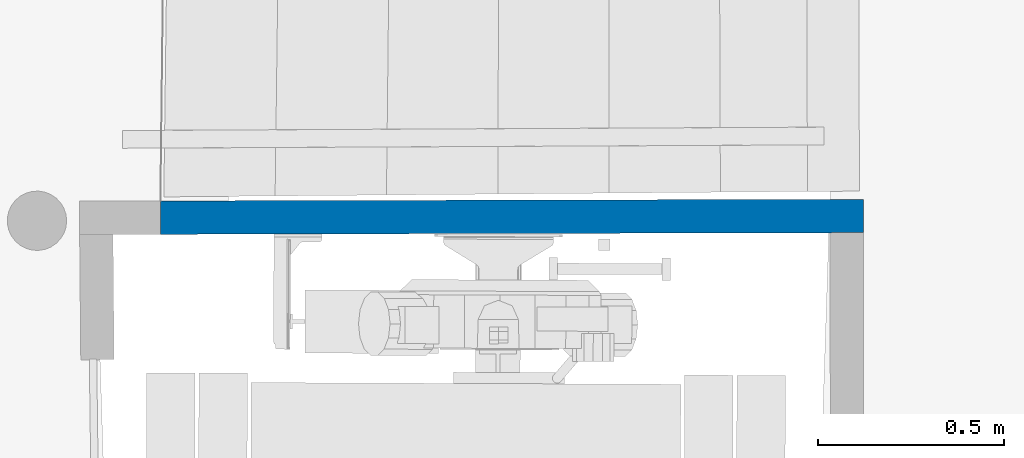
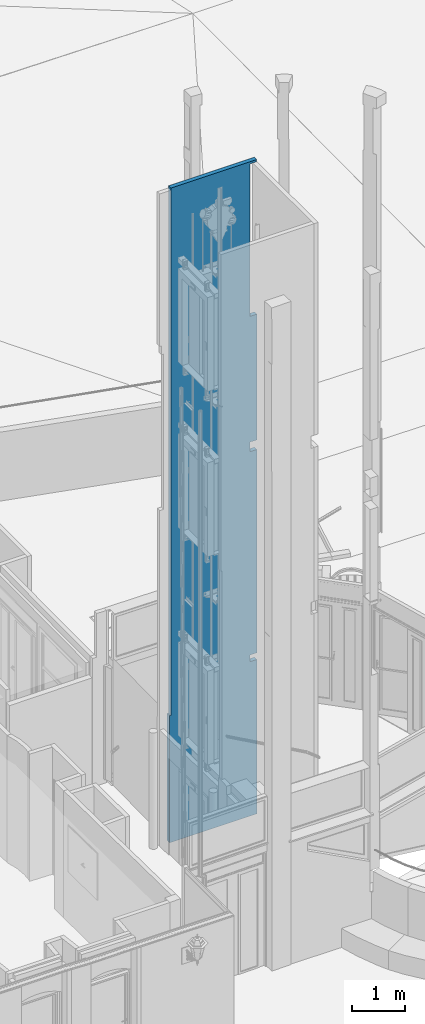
# One storey, part 100 of 133: 1 wall.
"""IFC2X3 building model written with IfcOpenShell, lengths in centimetres."""

from ifc_helpers import new_model, entity, si_unit, converted_unit, direction, frame, origin, origin_with_axes, place, context, subcontext, project, spatial, faceted_brep, material, layer, layer_set, layer_usage, type_object, element, save


model = new_model("IFC2X3")

# Units and contexts
model_context = context("Model", 3, precision=0.0001, world=origin(), true_north=direction((0.225632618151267, 0.974212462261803, 0.0)))
body_context = subcontext(model_context, "Body", "Model", "MODEL_VIEW")
ifc_project = project(units=[si_unit("LENGTHUNIT", "METRE", prefix="CENTI"), si_unit("AREAUNIT", "SQUARE_METRE", prefix="CENTI"), si_unit("VOLUMEUNIT", "CUBIC_METRE", prefix="CENTI"), converted_unit("PLANEANGLEUNIT", "DEGREE", entity("IfcRatioMeasure", 0.0174532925), si_unit("PLANEANGLEUNIT", "RADIAN"), dimensions=[0, 0, 0, 0, 0, 0, 0])], contexts=[model_context])

# Site, building, storey
site_placement = place(None, origin_with_axes())
site = spatial("IfcSite", under=ifc_project, at=site_placement, Name="Default Site", CompositionType="ELEMENT")
building_placement = place(site_placement, origin_with_axes())
building = spatial("IfcBuilding", under=site, at=building_placement, Name="Default Building", CompositionType="ELEMENT")
storey_placement = place(building_placement, frame((0.0, 0.0, -291.400371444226), z_axis=(0.0, 0.0, 1.0), x_axis=(1.0, 0.0, 0.0)))
storey = spatial("IfcBuildingStorey", under=building, at=storey_placement, Name="Rez-de-Jardin", CompositionType="ELEMENT", Elevation=-291.400371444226)

# Wall
ifc_material = material(Name="<aucun>")
ifc_layer = layer(ifc_material, 9.0)
ifc_layer_set = layer_set([ifc_layer], Name="default")
ifc_layer_usage = layer_usage(ifc_layer_set, "AXIS2", "POSITIVE", -4.5)
wall_type = type_object("IfcWallType", Name="default 90", PredefinedType="NOTDEFINED", material=ifc_layer_set)
wall_placement = place(storey_placement, frame((1121.43966080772, -435.118441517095, 7.46069872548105e-12), z_axis=(0.0, 0.0, 1.0), x_axis=(0.9999971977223, 0.00236739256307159, 0.0)))
element("IfcWall", 1, at=wall_placement, inside=storey, type_object=wall_type, material=ifc_layer_usage, Name="Enveloppe 567350", context=body_context, shape_type="Brep", body=[
    faceted_brep([(186.642651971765, 4.50000582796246, 1.03831219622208e-05), (-2.67052731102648, 4.50000581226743, 1.03831219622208e-05), (-2.67052731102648, 4.50000581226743, 262.400372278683), (-2.67052731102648, 4.50000581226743, 289.400371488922), (-0.0294142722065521, 4.5000058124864, 289.400371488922), (186.642651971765, 4.50000582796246, 289.400371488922), (-0.0294142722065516, 4.4999992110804, 289.400371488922), (-2.67052731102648, 4.49999921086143, 289.400371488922), (-2.67052731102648, 4.49999921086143, 291.413221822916), (-0.0294142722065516, 4.4999992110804, 291.413221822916), (-0.0294142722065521, 4.5000058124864, 291.413221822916), (171.64264805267, 4.50000582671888, 291.413221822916), (186.642651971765, 4.50000582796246, 291.413221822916), (171.64264805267, 4.50000582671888, 353.79756535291), (186.642651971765, 4.50000582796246, 353.79756535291), (171.64264805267, 4.49999235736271, 291.413221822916), (-0.029414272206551, 4.49999234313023, 291.413221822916), (-0.029414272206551, 4.49999234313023, 353.79756535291), (-0.029414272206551, 4.49999234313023, 391.400371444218), (171.64264805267, 4.49999235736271, 391.400371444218), (171.64264805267, 4.49999235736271, 369.195727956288), (171.64264805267, 4.49999235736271, 353.79756535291), (186.642651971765, 4.50000582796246, 369.195727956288), (171.64264805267, 4.50000582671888, 369.195727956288), (171.64264805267, 4.50000582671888, 391.400371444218), (186.642651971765, 4.50000582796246, 391.400371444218), (-0.0294142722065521, 4.5000058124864, 391.400371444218), (-0.0294142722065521, 4.5000058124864, 764.195714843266), (-0.0294142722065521, 4.5000058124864, 771.195732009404), (171.64264805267, 4.50000582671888, 771.195732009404), (186.642651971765, 4.50000582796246, 771.195732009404), (171.64264805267, 4.49999235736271, 771.195732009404), (-0.029414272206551, 4.49999234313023, 771.195732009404), (-0.029414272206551, 4.49999234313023, 860.310731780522), (171.64264805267, 4.49999235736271, 860.310731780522), (171.64264805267, 4.49999235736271, 857.195745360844), (171.64264805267, 4.49999235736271, 835.195718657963), (171.64264805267, 4.50000582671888, 835.195718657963), (186.642651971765, 4.50000582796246, 835.195718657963), (186.642651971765, 4.50000582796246, 857.195745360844), (171.64264805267, 4.50000582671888, 857.195745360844), (171.64264805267, 4.50000582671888, 860.310731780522), (186.642651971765, 4.50000582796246, 860.310731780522), (-0.0294142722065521, 4.5000058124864, 860.310731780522), (-0.0294142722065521, 4.5000058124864, 1133.31073368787), (-0.0294142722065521, 4.5000058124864, 1143.31077183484), (172.344649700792, 4.50000582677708, 1143.31077183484), (186.642651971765, 4.50000582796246, 1143.31077183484), (172.344649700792, 4.49999937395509, 1143.31077183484), (-0.0294142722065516, 4.4999993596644, 1143.31077183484), (-0.0294142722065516, 4.4999993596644, 1147.31076802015), (-0.0294142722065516, 4.4999993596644, 1246.96935261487), (-0.0294142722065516, 4.4999993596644, 1314.31077564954), (-0.0294142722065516, 4.4999993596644, 1355.31076039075), (-0.0294142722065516, 4.4999993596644, 1360.31077946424), (-0.0294142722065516, 4.4999993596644, 1367.31074894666), (-0.0294142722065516, 4.4999993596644, 1369.01429737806), (-0.0294142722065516, 4.4999993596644, 1373.31079090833), (-0.0294142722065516, 4.4999993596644, 1375.31074131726), (-0.0294142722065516, 4.4999993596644, 1379.31827152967), (-0.0294142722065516, 4.4999993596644, 1380.31076039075), (-0.0294142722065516, 4.4999993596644, 1384.66399754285), (-0.0294142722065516, 4.4999993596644, 1385.31077946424), (-0.0294142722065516, 4.4999993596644, 1385.96519078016), (-0.0294142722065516, 4.4999993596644, 1387.77536000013), (-0.0294142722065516, 4.4999993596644, 1392.05278004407), (-0.0294142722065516, 4.4999993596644, 1392.36634815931), (-0.0294142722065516, 4.4999993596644, 1392.81076039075), (-0.0294142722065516, 4.4999993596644, 1393.51676548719), (-0.0294142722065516, 4.4999993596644, 1396.1037978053), (-0.0294142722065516, 4.4999993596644, 1396.47735203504), (-0.0294142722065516, 4.4999993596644, 1398.47577656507), (-0.0294142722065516, 4.4999993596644, 1399.69533528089), (-0.0294142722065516, 4.4999993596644, 1400.31074131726), (-0.0294142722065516, 4.4999993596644, 1400.8193358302), (-0.0294142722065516, 4.4999993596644, 1401.56825627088), (-0.0294142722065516, 4.4999993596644, 1402.16897572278), (-0.0294142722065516, 4.4999993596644, 1402.67737950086), (-0.0294142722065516, 4.4999993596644, 1403.54741657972), (-0.0294142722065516, 4.4999993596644, 1404.56517781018), (-0.0294142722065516, 4.4999993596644, 1404.63336552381), (-0.0294142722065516, 4.4999993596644, 1404.75009526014), (-0.0294142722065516, 4.4999993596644, 1405.30732716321), (-0.0294142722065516, 4.4999993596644, 1406.05834568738), (-0.0294142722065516, 4.4999993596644, 1406.70837010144), (-0.0294142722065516, 4.4999993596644, 1407.15631092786), (-0.0294142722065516, 4.4999993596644, 1407.8791960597), (-0.0294142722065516, 4.4999993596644, 1408.25522984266), (-0.0294142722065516, 4.4999993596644, 1409.53219975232), (-0.0294142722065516, 4.4999993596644, 1427.31078709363), (-0.0294142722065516, 4.4999993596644, 1428.31071461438), (-0.0294142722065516, 4.4999993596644, 1430.31076039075), (-0.0294142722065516, 4.4999993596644, 1440.01315678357), (-0.0294142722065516, 4.4999993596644, 1448.41550434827), (-0.0294142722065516, 4.4999993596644, 1455.37236775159), (-0.0294142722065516, 4.4999993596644, 1474.74645222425), (-0.0294142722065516, 4.4999993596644, 1475.62564457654), (-0.0294142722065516, 4.4999993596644, 1477.8589590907), (-0.0294142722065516, 4.4999993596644, 1480.0131186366), (-0.0294142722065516, 4.4999993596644, 1480.03638828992), (-0.0294142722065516, 4.4999993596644, 1489.57103337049), (-0.0294142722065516, 4.4999993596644, 1493.90233601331), (-4.10726871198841e-05, 4.49999935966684, 1493.90233601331), (172.344649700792, 4.49999937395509, 1493.90233601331), (172.344649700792, 4.49999937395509, 1145.31072224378), (172.344649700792, 4.50000582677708, 1145.31072224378), (186.456398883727, 4.50000582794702, 1145.31072224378), (186.642651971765, 4.50000582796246, 1145.31072224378), (-4.107268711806e-05, 4.49997735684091, 1493.90233601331), (-0.0294142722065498, 4.49997735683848, 1493.90233601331), (-0.0294142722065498, 4.49997735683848, 1495.01317585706), (-4.107268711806e-05, 4.49997735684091, 1495.01317585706), (-4.10726871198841e-05, 4.49999935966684, 1495.01317585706), (-4.10726871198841e-05, 4.49999935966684, 1498.70732868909), (172.344649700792, 4.49999937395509, 1498.70732868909), (172.344649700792, 4.49999937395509, 1495.01317585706), (186.456398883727, 4.50001760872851, 1495.01317585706), (172.344649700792, 4.50001760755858, 1495.01317585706), (172.344649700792, 4.50001760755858, 1498.70732868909), (186.456398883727, 4.50001760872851, 1498.70732868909), (-4.10726871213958e-05, 4.50001759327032, 1498.70732868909), (-4.10726871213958e-05, 4.50001759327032, 1500.01891697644), (186.456398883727, 4.50001760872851, 1500.01891697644), (186.636222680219, -4.50001943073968, 289.400371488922), (177.636182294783, -4.50001943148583, 289.400371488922), (177.636182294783, -4.50001943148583, 1.03831219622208e-05), (186.636222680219, -4.50001943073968, 1.03831219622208e-05), (177.636182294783, -4.49997973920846, 289.400371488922), (-0.0293584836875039, -4.49997975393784, 289.400371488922), (-2.67056688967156, -4.49997975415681, 289.400371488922), (-2.67056688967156, -4.49997975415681, 262.400372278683), (-2.67056688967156, -4.49997975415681, 1.03831219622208e-05), (177.636182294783, -4.49997973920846, 1.03831219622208e-05), (-2.67056688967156, -4.49998750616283, 289.400371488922), (-0.0293584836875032, -4.49998750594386, 289.400371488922), (-0.0293584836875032, -4.49998750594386, 291.413221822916), (-2.67056688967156, -4.49998750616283, 291.413221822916), (186.636222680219, -4.50001943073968, 291.413221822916), (177.636182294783, -4.50001943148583, 291.413221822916), (177.636182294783, -4.49997973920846, 291.413221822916), (171.636218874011, -4.49997973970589, 291.413221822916), (-0.0293584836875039, -4.49997975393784, 291.413221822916), (171.636218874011, -4.49998521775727, 291.413221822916), (177.636182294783, -4.49998521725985, 291.413221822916), (177.636182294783, -4.49998521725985, 353.79756535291), (171.636218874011, -4.49998521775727, 353.79756535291), (186.636222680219, -4.49997973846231, 291.413221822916), (186.636222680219, -4.49997973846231, 353.79756535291), (177.636182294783, -4.49997973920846, 353.79756535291), (-0.0293584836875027, -4.49999371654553, 291.413221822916), (171.636218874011, -4.49999370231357, 291.413221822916), (171.636218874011, -4.49999370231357, 353.79756535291), (171.636218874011, -4.49999370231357, 369.195727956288), (171.636218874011, -4.49999370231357, 391.400371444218), (-0.0293584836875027, -4.49999371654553, 391.400371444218), (-0.0293584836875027, -4.49999371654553, 353.79756535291), (171.636218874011, -4.49998521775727, 369.195727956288), (177.636182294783, -4.49998521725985, 369.195727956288), (177.636182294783, -4.49998521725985, 391.400371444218), (171.636218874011, -4.49998521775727, 391.400371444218), (177.636182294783, -4.49997973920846, 369.195727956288), (186.636222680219, -4.49997973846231, 369.195727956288), (186.636222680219, -4.49997973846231, 391.400371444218), (177.636182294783, -4.49997973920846, 391.400371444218), (186.636222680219, -4.50001943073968, 644.308577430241), (177.636182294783, -4.50001943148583, 644.308577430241), (177.636182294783, -4.50001943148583, 569.408570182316), (186.636222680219, -4.50001943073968, 569.408570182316), (186.636222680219, -4.50001943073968, 771.195732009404), (177.636182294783, -4.50001943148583, 771.195732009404), (177.636182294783, -4.50001943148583, 391.400371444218), (186.636222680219, -4.50001943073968, 391.400371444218), (-0.0293584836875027, -4.49999371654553, 771.195732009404), (-0.0293584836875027, -4.49999371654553, 764.195714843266), (177.636182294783, -4.49999370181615, 391.400371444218), (177.636182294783, -4.49999370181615, 569.408570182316), (177.636182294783, -4.49999370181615, 644.308577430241), (177.636182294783, -4.49999370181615, 771.195732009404), (171.636218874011, -4.49999370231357, 771.195732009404), (171.636218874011, -4.49999370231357, 835.195718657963), (171.636218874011, -4.49999370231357, 857.195745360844), (171.636218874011, -4.49999370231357, 860.310731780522), (-0.0293584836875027, -4.49999371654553, 860.310731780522), (171.636218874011, -4.49998521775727, 771.195732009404), (177.636182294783, -4.49998521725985, 771.195732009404), (177.636182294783, -4.49998521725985, 835.195718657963), (171.636218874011, -4.49998521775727, 835.195718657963), (177.636182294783, -4.49997973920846, 771.195732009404), (186.636222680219, -4.49997973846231, 771.195732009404), (186.636222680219, -4.49997973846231, 835.195718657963), (177.636182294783, -4.49997973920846, 835.195718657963), (171.636218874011, -4.49998521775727, 857.195745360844), (177.636182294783, -4.49998521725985, 857.195745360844), (177.636182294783, -4.49998521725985, 860.310731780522), (171.636218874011, -4.49998521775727, 860.310731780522), (177.636182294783, -4.49997973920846, 857.195745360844), (186.636222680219, -4.49997973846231, 857.195745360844), (186.636222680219, -4.49997973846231, 860.310731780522), (177.636182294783, -4.49997973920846, 860.310731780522), (186.636222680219, -4.50001943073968, 1054.19572438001), (177.636182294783, -4.50001943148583, 1054.19572438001), (177.636182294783, -4.50001943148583, 977.310739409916), (186.636222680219, -4.50001943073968, 977.310739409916), (186.636222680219, -4.50001943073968, 1143.31077183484), (177.636182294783, -4.50001943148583, 1143.31077183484), (177.636182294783, -4.50001943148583, 860.310731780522), (186.636222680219, -4.50001943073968, 860.310731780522), (-0.0293584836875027, -4.49999371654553, 1143.31077183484), (-0.0293584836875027, -4.49999371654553, 1133.31073368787), (177.636182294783, -4.49999370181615, 860.310731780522), (177.636182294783, -4.49999370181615, 977.310739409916), (177.636182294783, -4.49999370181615, 1054.19572438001), (177.636182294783, -4.49999370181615, 1143.31077183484), (172.351858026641, -4.49999370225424, 1143.31077183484), (172.351858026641, -4.49999370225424, 1145.31072224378), (172.351858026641, -4.49999370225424, 1493.90233601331), (1.47158321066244e-05, -4.49999371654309, 1493.90233601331), (-0.0293584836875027, -4.49999371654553, 1493.90233601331), (-0.0293584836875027, -4.49999371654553, 1489.57103337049), (-0.0293584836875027, -4.49999371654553, 1480.03638828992), (-0.0293584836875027, -4.49999371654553, 1480.0131186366), (-0.0293584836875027, -4.49999371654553, 1477.8589590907), (-0.0293584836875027, -4.49999371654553, 1475.62564457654), (-0.0293584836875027, -4.49999371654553, 1474.74645222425), (-0.0293584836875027, -4.49999371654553, 1455.37236775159), (-0.0293584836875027, -4.49999371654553, 1448.41550434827), (-0.0293584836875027, -4.49999371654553, 1440.01315678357), (-0.0293584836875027, -4.49999371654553, 1430.31076039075), (-0.0293584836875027, -4.49999371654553, 1428.31071461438), (-0.0293584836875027, -4.49999371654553, 1427.31078709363), (-0.0293584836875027, -4.49999371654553, 1409.53219975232), (-0.0293584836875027, -4.49999371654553, 1408.25522984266), (-0.0293584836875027, -4.49999371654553, 1407.8791960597), (-0.0293584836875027, -4.49999371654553, 1407.15631092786), (-0.0293584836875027, -4.49999371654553, 1406.70837010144), (-0.0293584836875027, -4.49999371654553, 1406.05834568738), (-0.0293584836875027, -4.49999371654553, 1405.30732716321), (-0.0293584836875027, -4.49999371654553, 1404.75009526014), (-0.0293584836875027, -4.49999371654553, 1404.63336552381), (-0.0293584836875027, -4.49999371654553, 1404.56517781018), (-0.0293584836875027, -4.49999371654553, 1403.54741657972), (-0.0293584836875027, -4.49999371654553, 1402.67737950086), (-0.0293584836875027, -4.49999371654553, 1402.16897572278), (-0.0293584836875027, -4.49999371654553, 1401.56825627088), (-0.0293584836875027, -4.49999371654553, 1400.8193358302), (-0.0293584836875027, -4.49999371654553, 1400.31074131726), (-0.0293584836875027, -4.49999371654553, 1399.69533528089), (-0.0293584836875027, -4.49999371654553, 1398.47577656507), (-0.0293584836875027, -4.49999371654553, 1396.47735203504), (-0.0293584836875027, -4.49999371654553, 1396.1037978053), (-0.0293584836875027, -4.49999371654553, 1393.51676548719), (-0.0293584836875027, -4.49999371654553, 1392.81076039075), (-0.0293584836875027, -4.49999371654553, 1392.36634815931), (-0.0293584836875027, -4.49999371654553, 1392.05278004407), (-0.0293584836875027, -4.49999371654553, 1387.77536000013), (-0.0293584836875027, -4.49999371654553, 1385.96519078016), (-0.0293584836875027, -4.49999371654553, 1385.31077946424), (-0.0293584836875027, -4.49999371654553, 1384.66399754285), (-0.0293584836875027, -4.49999371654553, 1380.31076039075), (-0.0293584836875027, -4.49999371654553, 1379.31827152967), (-0.0293584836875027, -4.49999371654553, 1375.31074131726), (-0.0293584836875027, -4.49999371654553, 1373.31079090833), (-0.0293584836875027, -4.49999371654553, 1369.01429737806), (-0.0293584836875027, -4.49999371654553, 1367.31074894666), (-0.0293584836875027, -4.49999371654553, 1360.31077946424), (-0.0293584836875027, -4.49999371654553, 1355.31076039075), (-0.0293584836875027, -4.49999371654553, 1314.31077564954), (-0.0293584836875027, -4.49999371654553, 1246.96935261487), (-0.0293584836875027, -4.49999371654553, 1147.31076802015), (172.351858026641, -4.50001048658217, 1143.31077183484), (177.636182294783, -4.50001048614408, 1143.31077183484), (177.636182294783, -4.50001048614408, 1145.31072224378), (172.351858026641, -4.50001048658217, 1145.31072224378), (177.636182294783, -4.49997973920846, 1143.31077183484), (186.636222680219, -4.49997973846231, 1143.31077183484), (186.636222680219, -4.49997973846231, 1145.31072224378), (177.636182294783, -4.49997973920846, 1145.31072224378), (1.47158321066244e-05, -4.49999371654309, 1495.01317585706), (-0.0293584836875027, -4.49999371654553, 1495.01317585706), (1.47158321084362e-05, -4.5000155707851, 1493.90233601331), (172.351858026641, -4.50001555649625, 1493.90233601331), (172.351858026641, -4.50001555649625, 1495.01317585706), (172.351858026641, -4.50001555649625, 1498.70732868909), (1.47158321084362e-05, -4.5000155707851, 1498.70732868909), (1.47158321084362e-05, -4.5000155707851, 1495.01317585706), (172.351858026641, -4.50001048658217, 1495.01317585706), (177.636182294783, -4.50001048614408, 1495.01317585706), (177.636182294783, -4.50001048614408, 1498.70732868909), (172.351858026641, -4.50001048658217, 1498.70732868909), (177.636182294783, -4.49997973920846, 1495.01317585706), (186.45645455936, -4.49997973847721, 1495.01317585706), (186.45645455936, -4.49997973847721, 1498.70732868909), (177.636182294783, -4.49997973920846, 1498.70732868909), (177.636182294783, -4.50001555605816, 1498.70732868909), (186.45645455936, -4.50001555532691, 1498.70732868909), (186.45645455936, -4.50001555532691, 1500.01891697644), (1.47158321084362e-05, -4.5000155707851, 1500.01891697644), (-2.67056688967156, -4.49998750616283, 1.03831219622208e-05), (-2.67052731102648, 4.50000519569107, 1.03831219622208e-05), (-2.67056688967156, -4.49998750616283, 262.400372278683), (-2.6705668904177, 4.50000519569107, 262.400372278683), (-2.6705668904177, 4.50000519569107, 1.03831219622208e-05), (-2.6705668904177, 4.50000519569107, 289.400371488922), (-2.67052731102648, 4.50000519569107, 291.413221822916), (-2.67052731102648, 4.50000519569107, 289.400371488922), (-2.67052731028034, -4.49998750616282, 289.400371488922), (-2.67052731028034, -4.49998750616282, 291.413221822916), (186.636222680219, -4.50001943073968, 353.79756535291), (-0.029358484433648, 4.4999992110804, 353.79756535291), (-0.029358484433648, 4.4999992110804, 291.413221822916), (171.636219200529, -4.49998521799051, 369.195727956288), (171.636219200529, -4.49998521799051, 353.79756535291), (-0.029358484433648, 4.4999992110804, 391.400371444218), (186.636222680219, -4.50001943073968, 369.195727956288), (-0.029358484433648, 4.4999992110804, 771.195732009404), (-0.029358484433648, 4.4999992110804, 764.195714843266), (-0.0294142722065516, 4.4999992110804, 771.195732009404), (-0.0294142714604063, -4.49999371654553, 771.195732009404), (-0.0294142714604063, -4.49999371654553, 860.310731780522), (-0.0294142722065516, 4.4999992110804, 860.310731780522), (171.636219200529, -4.49998521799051, 857.195745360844), (171.636219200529, -4.49998521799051, 835.195718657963), (186.636222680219, -4.50001943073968, 835.195718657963), (186.636222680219, -4.50001943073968, 857.195745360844), (-0.029358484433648, 4.4999992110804, 1143.31077183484), (-0.029358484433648, 4.4999992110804, 1133.31073368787), (-0.029358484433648, 4.4999992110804, 860.310731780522), (-0.029358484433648, 4.4999992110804, 1455.37236775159), (-0.029358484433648, 4.4999992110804, 1448.41550434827), (-0.029358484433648, 4.4999992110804, 1440.01315678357), (-0.029358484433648, 4.4999992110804, 1430.31076039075), (-0.029358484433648, 4.4999992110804, 1428.31071461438), (-0.029358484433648, 4.4999992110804, 1427.31078709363), (-0.029358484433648, 4.4999992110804, 1409.53219975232), (-0.029358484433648, 4.4999992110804, 1408.25522984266), (-0.029358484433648, 4.4999992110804, 1407.8791960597), (-0.029358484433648, 4.4999992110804, 1407.15631092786), (-0.029358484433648, 4.4999992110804, 1406.70837010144), (-0.029358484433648, 4.4999992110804, 1406.05834568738), (-0.029358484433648, 4.4999992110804, 1405.30732716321), (-0.029358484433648, 4.4999992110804, 1404.75009526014), (-0.029358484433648, 4.4999992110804, 1404.63336552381), (-0.029358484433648, 4.4999992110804, 1404.56517781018), (-0.029358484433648, 4.4999992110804, 1403.54741657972), (-0.029358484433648, 4.4999992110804, 1402.67737950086), (-0.029358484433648, 4.4999992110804, 1402.16897572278), (-0.029358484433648, 4.4999992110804, 1401.56825627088), (-0.029358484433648, 4.4999992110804, 1474.74645222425), (-0.029358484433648, 4.4999992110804, 1480.03638828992), (-0.029358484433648, 4.4999992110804, 1480.0131186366), (-0.029358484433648, 4.4999992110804, 1477.8589590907), (-0.029358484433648, 4.4999992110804, 1475.62564457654), (-0.029358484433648, 4.4999992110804, 1493.90233601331), (-0.029358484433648, 4.4999992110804, 1489.57103337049), (-0.029358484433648, 4.4999992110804, 1314.31077564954), (-0.029358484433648, 4.4999992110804, 1246.96935261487), (-0.029358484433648, 4.4999992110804, 1400.8193358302), (-0.029358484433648, 4.4999992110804, 1400.31074131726), (-0.029358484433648, 4.4999992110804, 1399.69533528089), (-0.029358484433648, 4.4999992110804, 1398.47577656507), (-0.029358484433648, 4.4999992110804, 1396.47735203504), (-0.029358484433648, 4.4999992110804, 1396.1037978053), (-0.029358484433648, 4.4999992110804, 1393.51676548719), (-0.029358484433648, 4.4999992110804, 1392.81076039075), (-0.029358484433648, 4.4999992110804, 1392.36634815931), (-0.029358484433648, 4.4999992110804, 1392.05278004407), (-0.029358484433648, 4.4999992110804, 1387.77536000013), (-0.029358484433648, 4.4999992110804, 1385.96519078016), (-0.029358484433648, 4.4999992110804, 1385.31077946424), (-0.029358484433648, 4.4999992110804, 1384.66399754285), (-0.029358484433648, 4.4999992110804, 1380.31076039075), (-0.029358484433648, 4.4999992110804, 1379.31827152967), (-0.029358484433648, 4.4999992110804, 1375.31074131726), (-0.029358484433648, 4.4999992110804, 1373.31079090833), (-0.029358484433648, 4.4999992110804, 1369.01429737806), (-0.029358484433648, 4.4999992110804, 1367.31074894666), (-0.029358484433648, 4.4999992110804, 1360.31077946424), (-0.029358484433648, 4.4999992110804, 1355.31076039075), (-0.029358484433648, 4.4999992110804, 1147.31076802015), (172.351830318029, -4.50001050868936, 1493.90233601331), (172.351830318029, -4.50001050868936, 1145.31072224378), (186.636222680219, -4.50001943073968, 1145.31072224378), (-0.0294142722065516, 4.4999992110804, 1495.01317585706), (-0.0294142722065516, 4.4999992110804, 1493.90233601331), (-0.0294142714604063, -4.49999371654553, 1493.90233601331), (-0.0294142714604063, -4.49999371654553, 1495.01317585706), (1.47150859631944e-05, 4.49997735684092, 1498.70732868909), (1.47150859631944e-05, 4.49997735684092, 1495.01317585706), (172.351830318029, -4.50001050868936, 1495.01317585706), (186.45645455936, -4.50002300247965, 1495.01317585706), (186.456454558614, 4.50001760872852, 1495.01317585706), (186.456454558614, 4.50001760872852, 1498.70732868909), (186.45645455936, -4.50002300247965, 1498.70732868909), (-4.107268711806e-05, 4.49997735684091, 1500.01891697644), (186.45645455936, -4.50002300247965, 1500.01891697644), (-4.107268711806e-05, 4.49997735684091, 1498.70732868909), (-4.10719409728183e-05, -4.5000155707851, 1498.70732868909), (-4.10719409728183e-05, -4.5000155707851, 1500.01891697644), (186.456454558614, 4.50001760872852, 1500.01891697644), (186.642651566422, 4.50000582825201, 1.03831219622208e-05), (186.642651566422, 4.50000582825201, 289.400371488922), (186.642651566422, 4.50000582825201, 291.413221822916), (186.642651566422, 4.50000582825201, 353.79756535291), (186.642651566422, 4.50000582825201, 369.195727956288), (186.642651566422, 4.50000582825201, 391.400371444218), (186.642651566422, 4.50000582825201, 771.195732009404), (186.642651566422, 4.50000582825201, 835.195718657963), (186.642651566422, 4.50000582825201, 857.195745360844), (186.642651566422, 4.50000582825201, 860.310731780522), (186.642651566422, 4.50000582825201, 1143.31077183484), (186.642651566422, 4.50000582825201, 1145.31072224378)], [[[0, 1, 2, 3, 4, 5]], [[6, 7, 8, 9]], [[5, 4, 10, 11, 12]], [[12, 11, 13, 14]], [[15, 16, 17, 18, 19, 20, 21]], [[22, 23, 24, 25]], [[25, 24, 26, 27, 28, 29, 30]], [[31, 32, 33, 34, 35, 36]], [[30, 29, 37, 38]], [[39, 40, 41, 42]], [[42, 41, 43, 44, 45, 46, 47]], [[48, 49, 50, 51, 52, 53, 54, 55, 56, 57, 58, 59, 60, 61, 62, 63, 64, 65, 66, 67, 68, 69, 70, 71, 72, 73, 74, 75, 76, 77, 78, 79, 80, 81, 82, 83, 84, 85, 86, 87, 88, 89, 90, 91, 92, 93, 94, 95, 96, 97, 98, 99, 100, 101, 102, 103, 104]], [[47, 46, 105, 106, 107]], [[108, 109, 110, 111]], [[103, 102, 112, 113, 114, 115]], [[116, 117, 118, 119]], [[119, 118, 120, 121, 122]], [[123, 124, 125, 126]], [[127, 128, 129, 130, 131, 132]], [[133, 134, 135, 136]], [[137, 138, 124, 123]], [[139, 140, 141, 128, 127]], [[142, 143, 144, 145]], [[139, 146, 147, 148]], [[149, 150, 151, 152, 153, 154, 155]], [[156, 157, 158, 159]], [[160, 161, 162, 163]], [[164, 165, 166, 167]], [[168, 169, 165, 164]], [[167, 166, 170, 171]], [[172, 173, 154, 153, 174, 175, 176, 177, 178]], [[172, 178, 179, 180, 181, 182]], [[183, 184, 185, 186]], [[187, 188, 189, 190]], [[191, 192, 193, 194]], [[195, 196, 197, 198]], [[199, 200, 201, 202]], [[203, 204, 200, 199]], [[202, 201, 205, 206]], [[207, 208, 182, 181, 209, 210, 211, 212, 213]], [[207, 213, 214, 215, 216, 217, 218, 219, 220, 221, 222, 223, 224, 225, 226, 227, 228, 229, 230, 231, 232, 233, 234, 235, 236, 237, 238, 239, 240, 241, 242, 243, 244, 245, 246, 247, 248, 249, 250, 251, 252, 253, 254, 255, 256, 257, 258, 259, 260, 261, 262, 263, 264, 265, 266, 267, 268]], [[269, 270, 271, 272]], [[273, 274, 275, 276]], [[217, 216, 277, 278]], [[279, 280, 281, 282, 283, 284]], [[285, 286, 287, 288]], [[289, 290, 291, 292]], [[283, 282, 293, 294, 295, 296]], [[0, 126, 132, 297, 298]], [[299, 300, 301, 297]], [[133, 302, 300, 299]], [[136, 149, 9, 303]], [[304, 305, 306, 303]], [[21, 145, 148, 307, 14]], [[155, 308, 309, 149]], [[20, 310, 311, 21]], [[154, 312, 308, 155]], [[22, 313, 160, 156, 20]], [[172, 314, 315, 173]], [[173, 315, 312, 154]], [[316, 317, 318, 319]], [[35, 320, 321, 36]], [[36, 186, 190, 322, 38]], [[39, 323, 195, 191, 35]], [[207, 324, 325, 208]], [[208, 325, 326, 182]], [[224, 327, 328, 225]], [[225, 328, 329, 226]], [[226, 329, 330, 227]], [[227, 330, 331, 228]], [[228, 331, 332, 229]], [[229, 332, 333, 230]], [[230, 333, 334, 231]], [[231, 334, 335, 232]], [[232, 335, 336, 233]], [[233, 336, 337, 234]], [[234, 337, 338, 235]], [[235, 338, 339, 236]], [[236, 339, 340, 237]], [[237, 340, 341, 238]], [[238, 341, 342, 239]], [[239, 342, 343, 240]], [[240, 343, 344, 241]], [[241, 344, 345, 242]], [[242, 345, 346, 243]], [[223, 347, 327, 224]], [[219, 348, 349, 220]], [[220, 349, 350, 221]], [[221, 350, 351, 222]], [[222, 351, 347, 223]], [[217, 352, 353, 218]], [[218, 353, 348, 219]], [[266, 354, 355, 267]], [[243, 346, 356, 244]], [[244, 356, 357, 245]], [[245, 357, 358, 246]], [[246, 358, 359, 247]], [[247, 359, 360, 248]], [[248, 360, 361, 249]], [[249, 361, 362, 250]], [[250, 362, 363, 251]], [[251, 363, 364, 252]], [[252, 364, 365, 253]], [[253, 365, 366, 254]], [[254, 366, 367, 255]], [[255, 367, 368, 256]], [[256, 368, 369, 257]], [[257, 369, 370, 258]], [[258, 370, 371, 259]], [[259, 371, 372, 260]], [[260, 372, 373, 261]], [[261, 373, 374, 262]], [[262, 374, 375, 263]], [[263, 375, 376, 264]], [[264, 376, 377, 265]], [[265, 377, 354, 266]], [[268, 378, 324, 207]], [[267, 355, 378, 268]], [[103, 379, 380, 104]], [[104, 272, 276, 381, 107]], [[278, 284, 111, 382]], [[383, 384, 385, 382]], [[283, 386, 387, 284]], [[115, 388, 379, 103]], [[115, 116, 389, 289, 285]], [[389, 390, 391, 392]], [[122, 393, 296, 394]], [[395, 396, 397, 393]], [[392, 391, 398, 394]], [[126, 399, 400, 123]], [[123, 400, 401, 137]], [[137, 401, 402, 307]], [[313, 403, 404, 171]], [[171, 404, 405, 168, 164, 167]], [[168, 405, 406, 322]], [[323, 407, 408, 206]], [[206, 408, 409, 203, 199, 202]], [[203, 409, 410, 381]]]),
])

save(model, "model.ifc")
